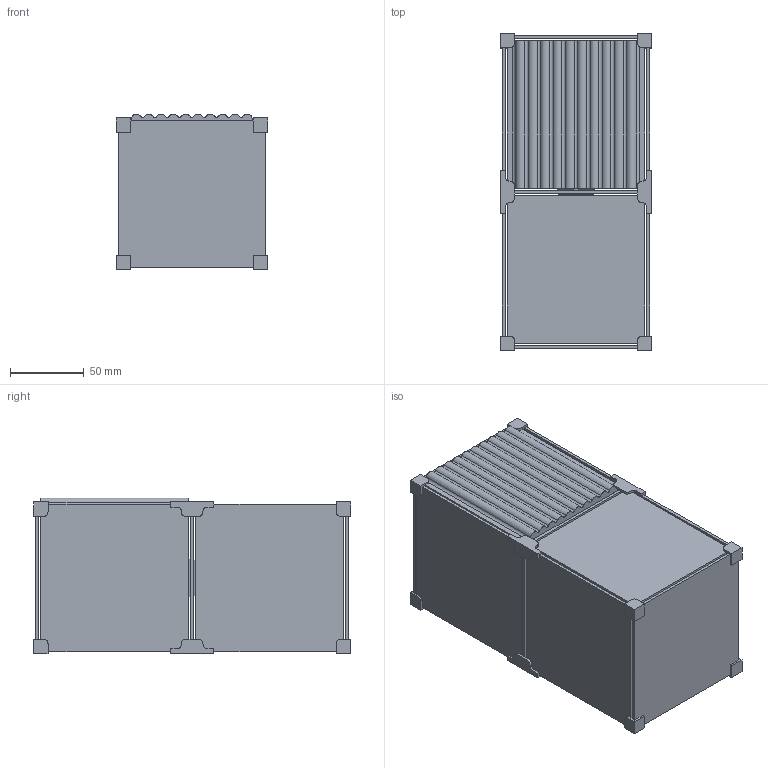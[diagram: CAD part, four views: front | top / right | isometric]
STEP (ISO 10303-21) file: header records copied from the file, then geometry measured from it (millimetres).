
FILE_DESCRIPTION(/* description */ (''),/* implementation_level */ '2;1');
FILE_NAME(/* name */ 'OpenLamp 2.0_Assembly.step',/* time_stamp */ '2026-02-05T21:44:06Z',/* author */ (''),/* organization */ (''),/* preprocessor_version */ 'ST-DEVELOPER v20.1',/* originating_system */ 'Autodesk Translation Framework v14.24.0.0',/* authorisation */ '');
FILE_SCHEMA (('AUTOMOTIVE_DESIGN { 1 0 10303 214 3 1 1 }'));
Length unit declared in the file: millimetre
Products named in the file (7): OpenLamp 2.0; Panels; Lampshade; Base Connector; Mid Connector; G14 Lamp + socket; Lamp socket holder
Assembly tree (6 placements, depth 3):
  OpenLamp 2.0
    Panels
      Lampshade
    Base Connector
    Mid Connector
    G14 Lamp + socket
    Lamp socket holder
Bounding box: 103 x 215.2 x 105.58 mm (x, y, z)
Volume: 260520 mm3; surface area: 242892.6 mm2
Topology: 26 solids, 26 shells, 693 faces, 1825 edges, 1184 vertices
Faces by surface type: plane 595, cylinder 70, bspline 24, cone 2, torus 2
Full cylindrical faces by diameter (mm): 2.9 x2, 3.3 x2, 8 x1, 15.3 x1, 18 x1
Entity records: 22357 total; most frequent: CARTESIAN_POINT 5191, ORIENTED_EDGE 3650, DIRECTION 3253, EDGE_CURVE 1825, LINE 1569, VECTOR 1569, VERTEX_POINT 1184, AXIS2_PLACEMENT_3D 842
